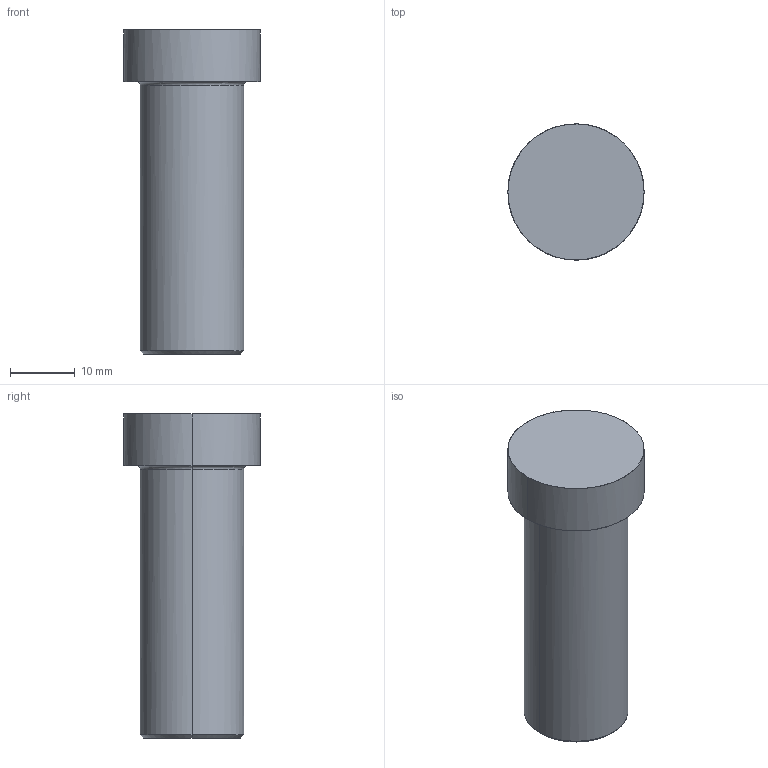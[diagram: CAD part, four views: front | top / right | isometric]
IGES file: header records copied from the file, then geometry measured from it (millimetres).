
Global section: file name: E:\UnigraphicsGraphicData\MISUMI_PRESS-PARTS\IGES\3d_hcup16-50_01337_r00.igs; native system: NX V5.0; preprocessor: UGS NX IGES V5.0; author: MISUMI; date: 20110105.160934; units: millimetre
Bounding box: 21 x 21 x 50 mm (x, y, z)
Surface area: 3308 mm2 (no closed solid volume)
Topology: 0 solids, 0 shells, 11 faces, 64 edges, 64 vertices
Faces by surface type: bspline 11
